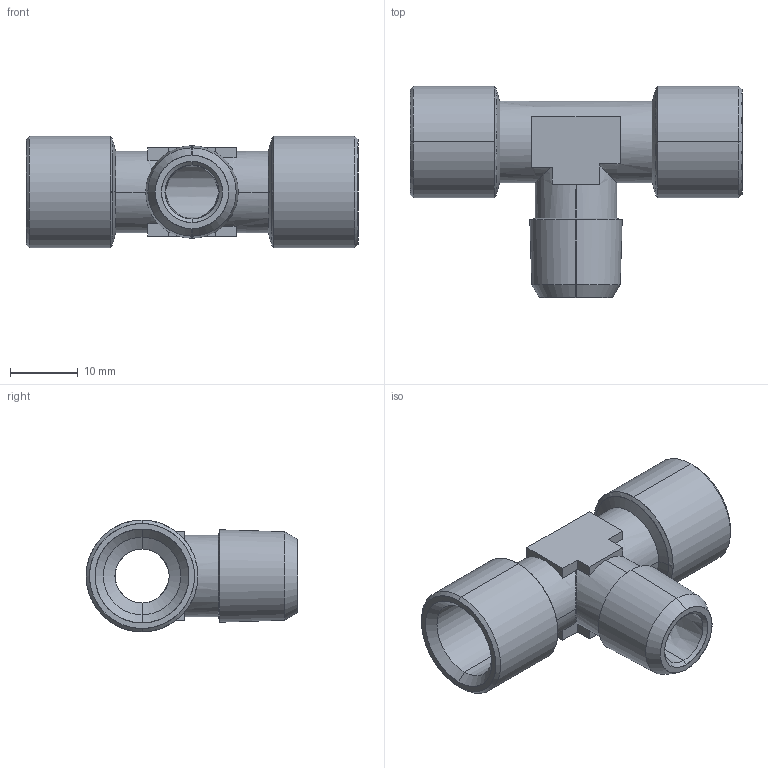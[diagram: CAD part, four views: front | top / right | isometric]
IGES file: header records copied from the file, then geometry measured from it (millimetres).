
Start section: SolidWorks IGES file using analytic representation for surfaces
Global section: file name: K:\Disegni Esecutivi\Accessori\4040\0404000010300.IGS; native system: SolidWorks 2007; preprocessor: SolidWorks 2007; author: cad02; date: 071023.142330; units: millimetre
Bounding box: 49 x 31.25 x 16.5 mm (x, y, z)
Surface area: 5290.7 mm2 (no closed solid volume)
Topology: 0 solids, 0 shells, 66 faces, 630 edges, 630 vertices
Faces by surface type: revolution 41, bspline 25
